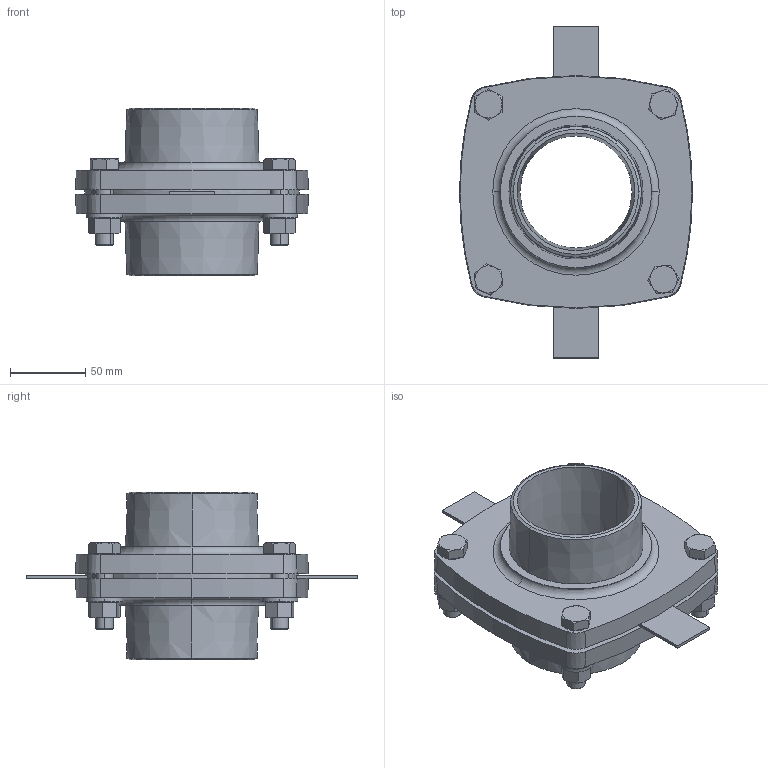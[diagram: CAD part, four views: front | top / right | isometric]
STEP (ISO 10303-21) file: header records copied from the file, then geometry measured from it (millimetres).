
FILE_DESCRIPTION (( 'STEP AP214' ), '1' );
FILE_NAME ('KP_F16-90MM.step', '2012-09-24T15:02:02', ( '' ), ( '' ), 'SwSTEP 2.0', 'SolidWorks 2012', '' );
FILE_SCHEMA (( 'AUTOMOTIVE_DESIGN' ));
Length unit declared in the file: millimetre
Products named in the file (1): KP_F16-90MM
Bounding box: 154.3 x 220 x 111 mm (x, y, z)
Volume: 651625.7 mm3; surface area: 179032.4 mm2
Topology: 15 solids, 15 shells, 370 faces, 804 edges, 472 vertices
Faces by surface type: plane 142, cone 140, cylinder 76, torus 12
Entity records: 14662 total; most frequent: CARTESIAN_POINT 2207, DIRECTION 1826, ORIENTED_EDGE 1608, EDGE_CURVE 804, AXIS2_PLACEMENT_3D 747, VERTEX_POINT 472, EDGE_LOOP 416, UNCERTAINTY_MEASURE_WITH_UNIT 387
